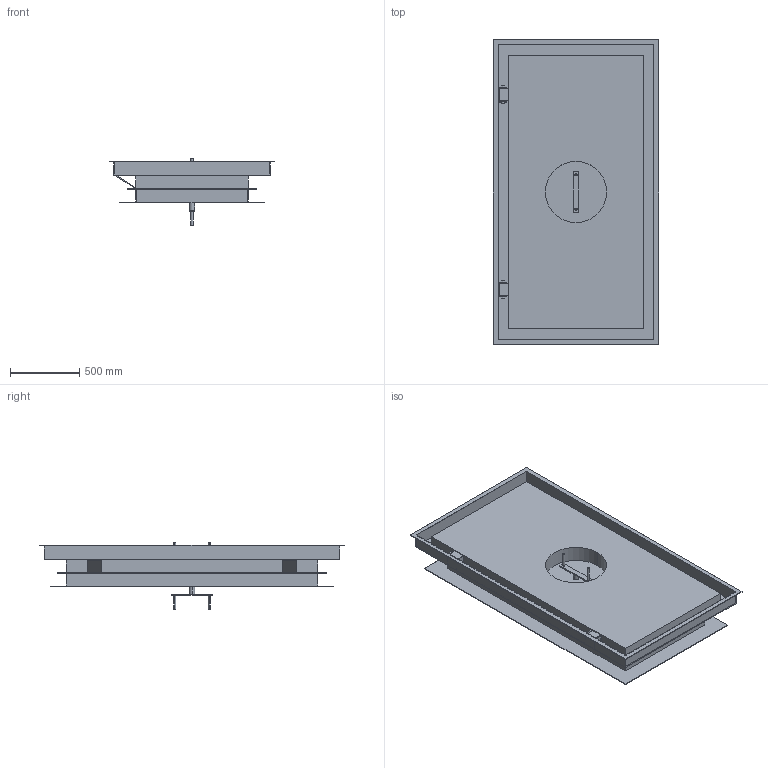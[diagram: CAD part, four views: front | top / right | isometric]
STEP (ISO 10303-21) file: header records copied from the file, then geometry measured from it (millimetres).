
FILE_DESCRIPTION((''),'2;1');
FILE_NAME('52208645','2024-02-15T13:03:24',('ka'),('HUBER SE'),'CREO PARAMETRIC BY PTC INC, 2022162','CREO PARAMETRIC BY PTC INC, 2022162','');
FILE_SCHEMA(('AUTOMOTIVE_DESIGN { 1 0 10303 214 1 1 1 1 }'));
Length unit declared in the file: millimetre
Products named in the file (1): 52208645
Bounding box: 1190 x 2190 x 480 mm (x, y, z)
Volume: 299153877.9 mm3; surface area: 11617430.1 mm2
Topology: 3 solids, 3 shells, 134 faces, 427 edges, 313 vertices
Faces by surface type: plane 112, cylinder 22
Entity records: 6147 total; most frequent: CARTESIAN_POINT 947, DIRECTION 740, ORIENTED_EDGE 652, VECTOR 345, LINE 345, EDGE_CURVE 326, VERTEX_POINT 212, AXIS2_PLACEMENT_3D 196
